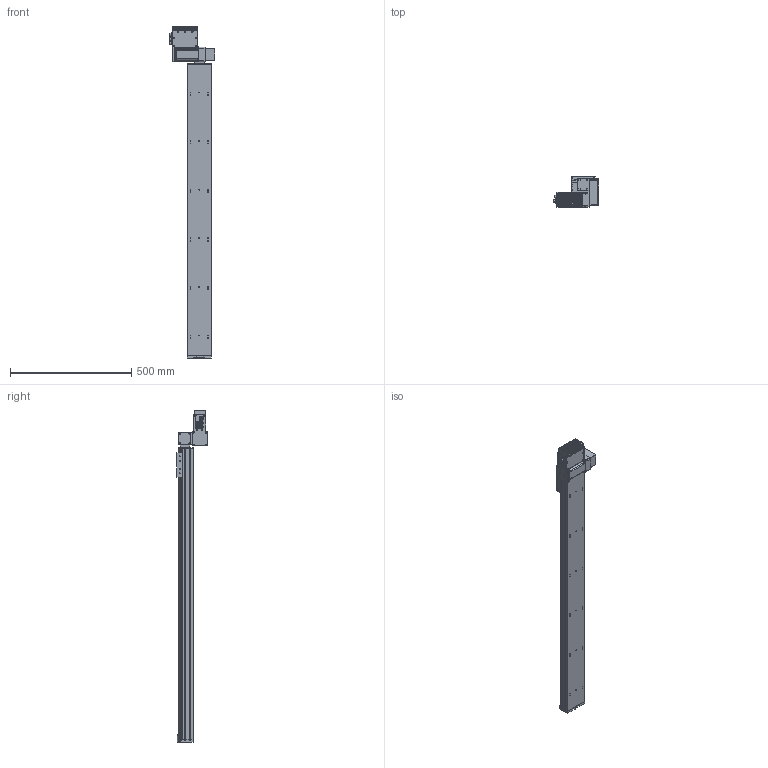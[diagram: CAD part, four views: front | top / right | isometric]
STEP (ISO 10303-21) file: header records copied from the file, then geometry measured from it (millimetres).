
FILE_DESCRIPTION (( 'STEP AP203' ), '1' );
FILE_NAME ('S10 TBH LH S1200.STEP', '2012-06-19T07:43:10', ( 'Conseil Régional Haute-Normandie' ), ( 'Conseil Régional Haute-Normandie' ), 'SwSTEP 2.0', 'SolidWorks 2010', '' );
FILE_SCHEMA (( 'CONFIG_CONTROL_DESIGN' ));
Length unit declared in the file: millimetre
Products named in the file (26): BU41 Carte Alimentation P05_3; Colonnette_3; Connecteur rond D10 3cts_5; Connecteur rond D12 4cts_5; T_X2_00F4_X0_le lat_X2_00E9_X0_rale_5; Vis TF 3 torkx_1_1; cache t皻e axe_Default; Plaque racord_Default; renvoi LH_Default; S10 TBH LH S1200; Assem1_7; T_X2_00F4_X0_le contre le moteur_5; BU45 Carte d''axe A11_5; Moteur 60BLDC90A_3; Couvercle_3; T_X2_00F4_X0_le fond_3; Sub D 9cts 90_X2_00B_X0__3; Radiateur profil_X2_00E9_X0_ 100x25_3; Colonnette ronde_3; T_X2_00F4_X0_le Arri_X2_00E8_X0_re_5; cache t皻e_Default; embout; palette tbn; plaque de bout s10_Default; axe1200; axe 1200
Assembly tree (48 placements, depth 3):
  S10 TBH LH S1200
    renvoi LH_Default
    axe1200
      axe 1200
    palette tbn
    cache t皻e axe_Default
    Assem1_7
      Connecteur rond D12 4cts_5
      Vis TF 3 torkx_1_1  x21
      T_X2_00F4_X0_le lat_X2_00E9_X0_rale_5  x2
      Colonnette_3  x2
      Connecteur rond D10 3cts_5  x2
      T_X2_00F4_X0_le contre le moteur_5
      BU45 Carte d''axe A11_5
      Radiateur profil_X2_00E9_X0_ 100x25_3
      Colonnette ronde_3
      Moteur 60BLDC90A_3
      Sub D 9cts 90_X2_00B_X0__3
      Couvercle_3
      T_X2_00F4_X0_le fond_3
      BU41 Carte Alimentation P05_3
      T_X2_00F4_X0_le Arri_X2_00E8_X0_re_5
    embout
    plaque de bout s10_Default
    cache t皻e_Default
    Plaque racord_Default
Bounding box: 186.1 x 124.75 x 1366.5 mm (x, y, z)
Volume: 7100803.7 mm3; surface area: 891452.7 mm2
Topology: 46 solids, 46 shells, 1951 faces, 4976 edges, 3235 vertices
Faces by surface type: cylinder 912, plane 870, cone 154, bspline 12, torus 3
Entity records: 44280 total; most frequent: CARTESIAN_POINT 8013, DIRECTION 7211, ORIENTED_EDGE 6568, EDGE_CURVE 3284, AXIS2_PLACEMENT_3D 2684, VERTEX_POINT 2151, VECTOR 1843, LINE 1843
